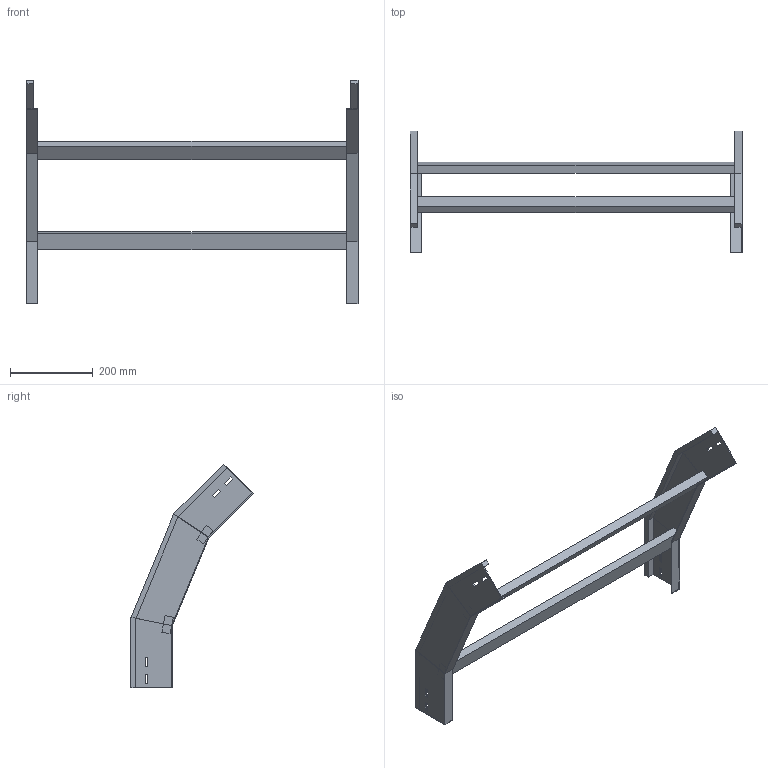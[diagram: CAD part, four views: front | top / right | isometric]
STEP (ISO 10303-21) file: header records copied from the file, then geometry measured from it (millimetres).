
FILE_DESCRIPTION (( 'STEP AP214' ), '1' );
FILE_NAME ('A2_34B3D800.step', '2025-02-21T14:51:50', ( '' ), ( '' ), 'SwSTEP 2.0', 'SolidWorks 2023', '' );
FILE_SCHEMA (( 'AUTOMOTIVE_DESIGN' ));
Length unit declared in the file: millimetre
Products named in the file (3): A2_34B3D800; TRAVERSINO_800; LONGH.DISCESA_45°_H100_R300
Assembly tree (5 placements, depth 2):
  A2_34B3D800
    LONGH.DISCESA_45°_H100_R300  x2
    TRAVERSINO_800  x3
Bounding box: 800 x 294.08 x 539.27 mm (x, y, z)
Volume: 2445048.3 mm3; surface area: 618297.4 mm2
Topology: 5 solids, 5 shells, 102 faces, 244 edges, 152 vertices
Faces by surface type: plane 102
Entity records: 1480 total; most frequent: CARTESIAN_POINT 244, ORIENTED_EDGE 232, DIRECTION 228, VECTOR 116, LINE 116, EDGE_CURVE 116, VERTEX_POINT 72, EDGE_LOOP 56
